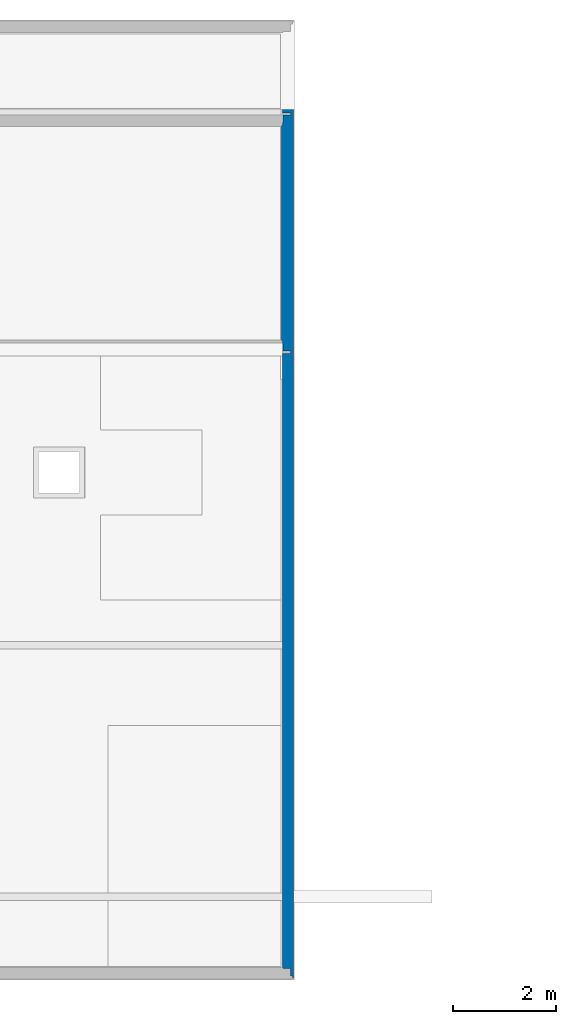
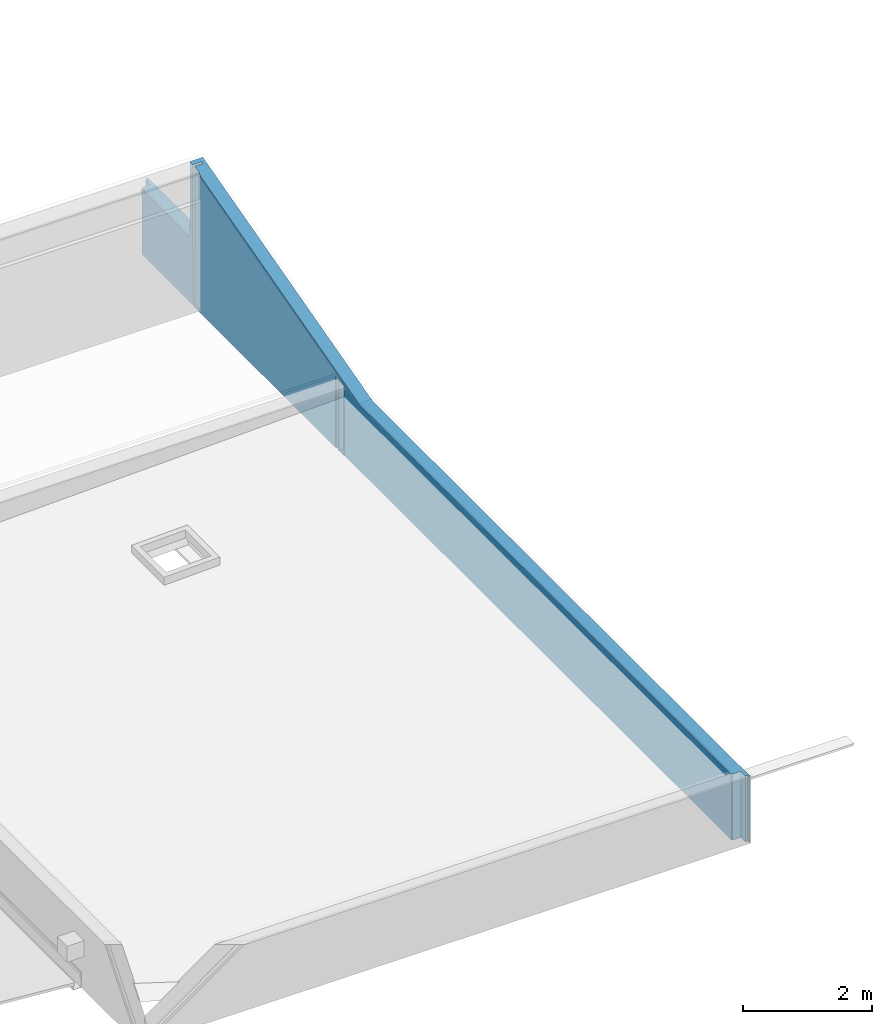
# One storey, part 6 of 8: 1 wall.
"""IFC2X3 building model written with IfcOpenShell, lengths in metres."""

from ifc_helpers import new_model, entity, si_unit, converted_unit, derived_unit, direction, frame, origin, place, context, subcontext, project, spatial, faceted_brep, type_object, element, save


model = new_model("IFC2X3")

# Units and contexts
model_context = context("Model", 3, precision=1e-05, world=origin(), true_north=direction((6.123031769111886e-17, 1.0)))
body_context = subcontext(model_context, "Body", "Model", "MODEL_VIEW")
ifc_project = project(units=[si_unit("LENGTHUNIT", "METRE"), si_unit("AREAUNIT", "SQUARE_METRE"), si_unit("VOLUMEUNIT", "CUBIC_METRE"), converted_unit("PLANEANGLEUNIT", "DEGREE", entity("IfcRatioMeasure", 0.017453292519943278), si_unit("PLANEANGLEUNIT", "RADIAN"), dimensions=[0, 0, 0, 0, 0, 0, 0]), si_unit("MASSUNIT", "GRAM", prefix="KILO"), derived_unit("MASSDENSITYUNIT", [(si_unit("MASSUNIT", "GRAM", prefix="KILO"), 1), (si_unit("LENGTHUNIT", "METRE"), -3)]), derived_unit("MOMENTOFINERTIAUNIT", [(si_unit("LENGTHUNIT", "METRE"), 4)]), si_unit("TIMEUNIT", "SECOND"), si_unit("FREQUENCYUNIT", "HERTZ"), si_unit("THERMODYNAMICTEMPERATUREUNIT", "DEGREE_CELSIUS"), derived_unit("THERMALTRANSMITTANCEUNIT", [(si_unit("MASSUNIT", "GRAM", prefix="KILO"), 1), (si_unit("THERMODYNAMICTEMPERATUREUNIT", "KELVIN"), -1), (si_unit("TIMEUNIT", "SECOND"), -3)]), derived_unit("THERMALCONDUCTANCEUNIT", [(si_unit("MASSUNIT", "GRAM", prefix="KILO"), 1), (si_unit("LENGTHUNIT", "METRE"), 1), (si_unit("THERMODYNAMICTEMPERATUREUNIT", "KELVIN"), -1), (si_unit("TIMEUNIT", "SECOND"), -3)]), derived_unit("VOLUMETRICFLOWRATEUNIT", [(si_unit("LENGTHUNIT", "METRE"), 3), (si_unit("TIMEUNIT", "SECOND"), -1)]), derived_unit("MASSFLOWRATEUNIT", [(si_unit("MASSUNIT", "GRAM", prefix="KILO"), 1), (si_unit("TIMEUNIT", "SECOND"), -1)]), derived_unit("ROTATIONALFREQUENCYUNIT", [(si_unit("TIMEUNIT", "SECOND"), -1)]), si_unit("ELECTRICCURRENTUNIT", "AMPERE"), si_unit("ELECTRICVOLTAGEUNIT", "VOLT"), si_unit("POWERUNIT", "WATT"), si_unit("FORCEUNIT", "NEWTON", prefix="KILO"), si_unit("ILLUMINANCEUNIT", "LUX"), si_unit("LUMINOUSFLUXUNIT", "LUMEN"), si_unit("LUMINOUSINTENSITYUNIT", "CANDELA"), derived_unit("USERDEFINED", [(si_unit("MASSUNIT", "GRAM", prefix="KILO"), -1), (si_unit("LENGTHUNIT", "METRE"), -2), (si_unit("TIMEUNIT", "SECOND"), 3), (si_unit("LUMINOUSFLUXUNIT", "LUMEN"), 1)]), derived_unit("USERDEFINED", [(si_unit("MASSUNIT", "GRAM", prefix="KILO"), 1), (si_unit("LENGTHUNIT", "METRE"), 3), (si_unit("TIMEUNIT", "SECOND"), -3), (si_unit("ELECTRICCURRENTUNIT", "AMPERE"), -2)]), derived_unit("USERDEFINED", [(si_unit("LENGTHUNIT", "METRE"), 2), (si_unit("TIMEUNIT", "SECOND"), -2)]), derived_unit("SOUNDPOWERUNIT", [(si_unit("MASSUNIT", "GRAM", prefix="KILO"), 1), (si_unit("LENGTHUNIT", "METRE"), 2), (si_unit("TIMEUNIT", "SECOND"), -3)]), derived_unit("SOUNDPRESSUREUNIT", [(si_unit("MASSUNIT", "GRAM", prefix="KILO"), 1), (si_unit("LENGTHUNIT", "METRE"), -1), (si_unit("TIMEUNIT", "SECOND"), -2)]), derived_unit("LINEARVELOCITYUNIT", [(si_unit("LENGTHUNIT", "METRE"), 1), (si_unit("TIMEUNIT", "SECOND"), -1)]), si_unit("PRESSUREUNIT", "PASCAL"), derived_unit("USERDEFINED", [(si_unit("LENGTHUNIT", "METRE"), -2), (si_unit("MASSUNIT", "GRAM", prefix="KILO"), 1), (si_unit("TIMEUNIT", "SECOND"), -2)]), derived_unit("LINEARFORCEUNIT", [(si_unit("MASSUNIT", "GRAM", prefix="KILO"), 1), (si_unit("LENGTHUNIT", "METRE"), 1), (si_unit("TIMEUNIT", "SECOND"), -2), (si_unit("LENGTHUNIT", "METRE"), -1)]), derived_unit("PLANARFORCEUNIT", [(si_unit("MASSUNIT", "GRAM", prefix="KILO"), 1), (si_unit("LENGTHUNIT", "METRE"), 1), (si_unit("TIMEUNIT", "SECOND"), -2), (si_unit("LENGTHUNIT", "METRE"), -2)]), derived_unit("SPECIFICHEATCAPACITYUNIT", [(si_unit("LENGTHUNIT", "METRE"), 2), (si_unit("TIMEUNIT", "SECOND"), -2), (si_unit("THERMODYNAMICTEMPERATUREUNIT", "KELVIN"), -1)]), derived_unit("VAPORPERMEABILITYUNIT", [(si_unit("TIMEUNIT", "SECOND"), 1), (si_unit("LENGTHUNIT", "METRE"), -1)]), derived_unit("DYNAMICVISCOSITYUNIT", [(si_unit("MASSUNIT", "GRAM", prefix="KILO"), 1), (si_unit("LENGTHUNIT", "METRE"), -1), (si_unit("TIMEUNIT", "SECOND"), -1)]), derived_unit("THERMALEXPANSIONCOEFFICIENTUNIT", [(si_unit("THERMODYNAMICTEMPERATUREUNIT", "KELVIN"), -1)])], contexts=[model_context])

# Site, building, storey
site_placement = place(None, origin())
site = spatial("IfcSite", under=ifc_project, at=site_placement, Name="Default", CompositionType="ELEMENT")
building_placement = place(site_placement, origin())
building = spatial("IfcBuilding", under=site, at=building_placement, CompositionType="ELEMENT")
storey_placement = place(building_placement, frame((0.0, 0.0, 6.059999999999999)))
storey = spatial("IfcBuildingStorey", under=building, at=storey_placement, Name="TOITURE", CompositionType="ELEMENT", Elevation=6.059999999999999)

# Wall
wall_type = type_object("IfcWallType", Name="MurExt-021", PredefinedType="NOTDEFINED")
wall_placement = place(storey_placement, frame((152.07075228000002, 7.587209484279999, 0.71), z_axis=(0.0, 0.0, 1.0), x_axis=(0.0, 1.0, 0.0)))
element("IfcWall", 1, at=wall_placement, inside=storey, type_object=wall_type, Name="MurExt-021 819415:MurExt-021 819415", ObjectType="MurExt-021 819415:MurExt-021 819415", context=body_context, shape_type="Brep", body=[
    faceted_brep([(0.02200000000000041, -0.20799999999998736, 0.0), (18.627999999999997, -0.20799999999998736, 0.0), (18.627999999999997, -0.22999999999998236, 0.0), (0.02200000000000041, -0.22999999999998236, 0.0), (18.627999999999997, -0.22999999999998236, 1.2500000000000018), (16.929999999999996, -0.22999999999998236, 1.2500000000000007), (16.930000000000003, -0.22999999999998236, 2.667900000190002), (11.678518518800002, -0.22999999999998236, 1.2500000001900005), (0.02200000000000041, -0.22999999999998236, 1.2500000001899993), (0.02200000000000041, -0.20799999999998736, 1.2500000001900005), (0.061999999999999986, -0.20799999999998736, 1.2500000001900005), (11.678518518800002, -0.20799999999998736, 1.2500000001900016), (16.929999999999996, -0.20799999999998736, 2.667900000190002), (16.929999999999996, -0.20799999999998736, 1.2500000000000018), (18.587999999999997, -0.20799999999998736, 1.2500000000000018), (18.627999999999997, -0.20799999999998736, 1.2500000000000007)], [[[0, 1, 2, 3]], [[3, 2, 4, 5, 6, 7, 8]], [[1, 0, 9, 10, 11, 12, 13, 14, 15]], [[12, 6, 5, 13]], [[13, 5, 4, 15, 14]], [[15, 4, 2, 1]], [[8, 9, 0, 3]], [[9, 8, 7, 11, 10]], [[6, 12, 11, 7]]]),
    faceted_brep([(0.06200000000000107, -0.16799999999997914, 0.0), (18.587999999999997, -0.16799999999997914, 0.0), (18.587999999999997, -0.20799999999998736, 0.0), (0.06200000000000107, -0.20799999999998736, 0.0), (18.587999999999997, -0.20799999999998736, 1.2500000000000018), (16.929999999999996, -0.20799999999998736, 1.2500000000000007), (16.92999999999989, -0.20799999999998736, 2.6679000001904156), (11.678518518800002, -0.20799999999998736, 1.2500000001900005), (0.06200000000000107, -0.20799999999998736, 1.2500000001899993), (0.061999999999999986, -0.16799999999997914, 1.2500000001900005), (0.20700000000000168, -0.16799999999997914, 1.2500000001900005), (11.678518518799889, -0.16799999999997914, 1.2500000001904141), (16.818000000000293, -0.16799999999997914, 2.637660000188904), (16.858000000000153, -0.16799999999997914, 2.648460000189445), (16.929999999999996, -0.16799999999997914, 2.6679000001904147), (16.929999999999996, -0.16799999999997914, 1.2500000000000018), (18.443, -0.16799999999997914, 1.2500000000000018), (18.587999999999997, -0.16799999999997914, 1.2500000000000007)], [[[0, 1, 2, 3]], [[3, 2, 4, 5, 6, 7, 8]], [[1, 0, 9, 10, 11, 12, 13, 14, 15, 16, 17]], [[14, 6, 5, 15]], [[15, 5, 4, 17, 16]], [[17, 4, 2, 1]], [[8, 9, 0, 3]], [[9, 8, 7, 11, 10]], [[6, 14, 13, 12, 11, 7]]]),
    faceted_brep([(18.443, -0.16799999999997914, 0.0), (0.2070000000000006, -0.16799999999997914, 0.0), (0.2070000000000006, -0.02299999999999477, 0.0), (18.443, -0.02299999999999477, 0.0), (12.181999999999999, -0.16799999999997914, 0.050000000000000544), (12.181999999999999, -0.16799999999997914, 1.330000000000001), (12.221999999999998, -0.16799999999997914, 1.330000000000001), (12.221999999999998, -0.16799999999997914, 0.050000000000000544), (18.443, -0.16799999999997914, 1.2500000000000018), (16.929999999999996, -0.16799999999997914, 1.2500000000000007), (16.929999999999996, -0.16799999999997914, 2.667900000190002), (16.857999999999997, -0.16799999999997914, 2.6484600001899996), (16.857999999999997, -0.16799999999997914, 0.050000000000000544), (16.817999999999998, -0.16799999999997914, 0.050000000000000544), (16.817999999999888, -0.16799999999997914, 2.637660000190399), (11.678518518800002, -0.16799999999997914, 1.2500000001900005), (0.2070000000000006, -0.16799999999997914, 1.2500000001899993), (12.181999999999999, -0.02299999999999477, 1.330000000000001), (12.181999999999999, -0.02299999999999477, 0.050000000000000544), (12.221999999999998, -0.02299999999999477, 0.050000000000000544), (12.221999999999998, -0.02299999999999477, 1.330000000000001), (0.20700000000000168, -0.02299999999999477, 1.2500000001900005), (0.2190000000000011, -0.02299999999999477, 1.2500000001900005), (11.678518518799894, -0.02299999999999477, 1.250000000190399), (16.673000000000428, -0.02299999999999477, 2.5985100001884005), (16.817999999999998, -0.02299999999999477, 2.63766000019), (16.817999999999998, -0.02299999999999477, 0.050000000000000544), (16.857999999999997, -0.02299999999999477, 0.050000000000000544), (16.858, -0.02299999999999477, 2.6484600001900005), (16.929999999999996, -0.02299999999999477, 2.667900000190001), (16.929999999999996, -0.02299999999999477, 1.2500000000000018), (18.430999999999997, -0.02299999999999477, 1.2500000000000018), (18.443, -0.02299999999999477, 1.2500000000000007)], [[[0, 1, 2, 3]], [[4, 5, 6, 7], [1, 0, 8, 9, 10, 11, 12, 13, 14, 15, 16]], [[17, 18, 19, 20], [3, 2, 21, 22, 23, 24, 25, 26, 27, 28, 29, 30, 31, 32]], [[17, 5, 4, 18]], [[5, 17, 20, 6]], [[6, 20, 19, 7]], [[18, 4, 7, 19]], [[29, 10, 9, 30]], [[30, 9, 8, 32, 31]], [[32, 8, 0, 3]], [[16, 21, 2, 1]], [[21, 16, 15, 23, 22]], [[23, 15, 14, 25, 24]], [[25, 14, 13, 26]], [[26, 13, 12, 27]], [[27, 12, 11, 28]], [[10, 29, 28, 11]]], outer=[[True], [False, True], [False, True], [True], [True], [True], [True], [True], [True], [True], [True], [True], [True], [True], [True], [True], [True]]),
    faceted_brep([(18.430999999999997, -0.02299999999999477, 0.0), (0.2190000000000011, -0.02299999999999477, 0.0), (0.2190000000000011, -0.0109999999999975, 0.0), (18.430999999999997, -0.0109999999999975, 0.0), (12.181999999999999, -0.02299999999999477, 0.050000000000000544), (12.181999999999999, -0.02299999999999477, 1.330000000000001), (12.366999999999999, -0.02299999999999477, 1.330000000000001), (12.366999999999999, -0.02299999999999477, 0.050000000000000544), (18.430999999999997, -0.02299999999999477, 1.2500000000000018), (16.929999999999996, -0.02299999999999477, 1.2500000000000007), (16.929999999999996, -0.02299999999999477, 2.667900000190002), (16.857999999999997, -0.02299999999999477, 2.6484600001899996), (16.857999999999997, -0.02299999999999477, 0.050000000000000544), (16.672999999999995, -0.02299999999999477, 0.050000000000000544), (16.672999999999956, -0.02299999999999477, 2.5985100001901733), (11.678518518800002, -0.02299999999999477, 1.2500000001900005), (0.2190000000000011, -0.02299999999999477, 1.2500000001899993), (12.181999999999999, -0.0109999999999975, 1.330000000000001), (12.181999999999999, -0.0109999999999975, 0.050000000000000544), (12.366999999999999, -0.0109999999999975, 0.050000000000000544), (12.366999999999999, -0.0109999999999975, 1.330000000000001), (0.2190000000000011, -0.0109999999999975, 1.2500000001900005), (0.2300000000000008, -0.0109999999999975, 1.2500000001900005), (11.678518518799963, -0.0109999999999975, 1.2500000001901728), (16.61300000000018, -0.0109999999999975, 2.5823100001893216), (16.672999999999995, -0.0109999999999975, 2.59851000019), (16.672999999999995, -0.0109999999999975, 0.050000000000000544), (16.857999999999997, -0.0109999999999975, 0.050000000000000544), (16.858, -0.0109999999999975, 2.6484600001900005), (16.929999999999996, -0.0109999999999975, 2.667900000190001), (16.929999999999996, -0.0109999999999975, 1.2500000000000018), (18.42, -0.0109999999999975, 1.2500000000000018), (18.430999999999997, -0.0109999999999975, 1.2500000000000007), (16.857999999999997, -0.010999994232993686, 0.050000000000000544)], [[[0, 1, 2, 3]], [[4, 5, 6, 7], [1, 0, 8, 9, 10, 11, 12, 13, 14, 15, 16]], [[17, 18, 19, 20], [3, 2, 21, 22, 23, 24, 25, 26, 27, 28, 29, 30, 31, 32]], [[4, 18, 17, 5]], [[5, 17, 20, 6]], [[6, 20, 19, 7]], [[18, 4, 7, 19]], [[29, 10, 9, 30]], [[30, 9, 8, 32, 31]], [[32, 8, 0, 3]], [[16, 21, 2, 1]], [[21, 16, 15, 23, 22]], [[23, 15, 14, 25, 24]], [[25, 14, 13, 26]], [[26, 13, 12, 27]], [[33, 12, 11, 28]], [[10, 29, 28, 11]]], outer=[[True], [False, True], [False, True], [True], [True], [True], [True], [True], [True], [True], [True], [True], [True], [True], [True], [True], [True]]),
    faceted_brep([(12.427, 0.0, 0.0), (16.817999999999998, 0.0, 0.0), (16.817999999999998, -0.0109999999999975, 0.0), (12.427, -0.0109999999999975, 0.0), (12.427, -0.0109999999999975, 1.330000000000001), (12.427, 0.0, 1.330000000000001), (16.817999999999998, 0.0, 0.050000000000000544), (16.817999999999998, -0.0109999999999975, 0.050000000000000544), (16.817999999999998, -0.010999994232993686, 0.050000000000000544), (16.612999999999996, 0.0, 0.050000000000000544), (16.612999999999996, -0.0109999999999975, 0.050000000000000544), (16.612999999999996, 0.0, 2.5823100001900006), (16.612999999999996, -0.0109999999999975, 2.5823100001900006), (11.678518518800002, 0.0, 1.2500000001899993), (11.678518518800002, -0.0109999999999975, 1.2500000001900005), (0.2300000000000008, 0.0, 1.2500000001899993), (0.2300000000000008, -0.0109999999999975, 1.2500000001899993), (0.2300000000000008, 0.0, 1.1259258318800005), (0.2300000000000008, -0.0109999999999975, 1.12631083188), (12.159999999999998, 0.0, 1.1259258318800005), (12.159999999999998, -0.0109999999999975, 1.12631083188), (12.159999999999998, 0.0, 1.330000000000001), (12.159999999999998, -0.0109999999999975, 1.330000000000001)], [[[0, 1, 2, 3]], [[4, 5, 0, 3]], [[6, 7, 2, 1]], [[8, 6, 9, 10]], [[10, 9, 11, 12]], [[12, 11, 13, 14]], [[14, 13, 15, 16]], [[16, 15, 17, 18]], [[18, 17, 19, 20]], [[20, 19, 21, 22]], [[5, 4, 22, 21]], [[1, 0, 5, 21, 19, 17, 15, 13, 11, 9, 6]], [[3, 2, 7, 10, 12, 14, 16, 18, 20, 22, 4]]]),
    faceted_brep([(16.857999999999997, -0.0109999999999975, 1.1263108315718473), (18.42, -0.0109999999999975, 1.126310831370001), (18.42, -0.0109999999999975, 1.2500000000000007), (16.929999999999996, -0.0109999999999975, 1.2500000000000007), (16.929999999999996, -0.0109999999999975, 2.667900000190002), (16.857999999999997, -0.0109999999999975, 2.6484600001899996), (18.42, 0.0, 1.1259258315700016), (16.857999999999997, 0.0, 1.1259258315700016), (16.858, 0.0, 2.6484600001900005), (16.929999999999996, 0.0, 2.667900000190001), (16.929999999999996, 0.0, 1.2500000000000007), (18.42, 0.0, 1.2500000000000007), (16.857999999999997, -0.010999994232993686, 1.126310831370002), (18.42, -0.010999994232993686, 1.126310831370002)], [[[0, 1, 2, 3, 4, 5]], [[6, 7, 8, 9, 10, 11]], [[6, 1, 12, 7]], [[13, 6, 11, 2]], [[2, 11, 10, 3]], [[3, 10, 9, 4]], [[4, 9, 8, 5]], [[7, 0, 5, 8]]]),
    faceted_brep([(12.352999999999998, 0.0, 0.050000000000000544), (12.352999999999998, -0.0109999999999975, 0.050000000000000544), (12.352999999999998, -0.0109999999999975, 0.0), (12.352999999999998, 0.0, 0.0), (12.181999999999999, 0.0, 0.050000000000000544), (12.181999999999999, -0.0109999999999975, 0.050000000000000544), (12.181999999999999, 0.0, 0.0), (12.181999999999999, -0.0109999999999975, 0.0)], [[[0, 1, 2, 3]], [[1, 0, 4, 5]], [[5, 4, 6, 7]], [[3, 6, 4, 0]], [[7, 2, 1, 5]], [[6, 3, 2, 7]]]),
])

save(model, "model.ifc")
